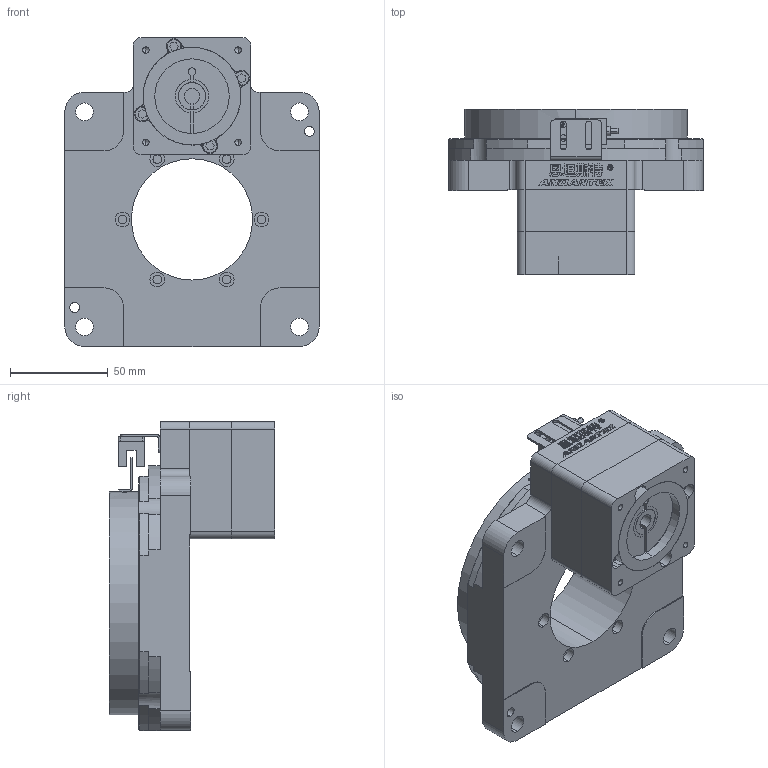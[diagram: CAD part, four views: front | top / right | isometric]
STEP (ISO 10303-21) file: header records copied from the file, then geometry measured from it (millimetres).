
FILE_DESCRIPTION(('Open CASCADE Model'),'2;1');
FILE_NAME('Open CASCADE Shape Model','2026-10-11T02:43:47',('Author'),( 'Open CASCADE'),'Open CASCADE STEP processor 7.8','Open CASCADE 7.8' ,'Unknown');
FILE_SCHEMA(('AUTOMOTIVE_DESIGN { 1 0 10303 214 1 1 1 1 }'));
Length unit declared in the file: millimetre
Products named in the file (3): NT130-18(配57步进 输入8-32 38.1-5 4-M4-47.14-47.14); NT130-18(配57步进 输入8-32 38.1-5 4-M4-47.14-47.14)-01; NT130-18(配57步进 输入8-32 38.1-5 4-M4-47.14-47.14)-02
Assembly tree (2 placements, depth 2):
  NT130-18(配57步进 输入8-32 38.1-5 4-M4-47.14-47.14)
    NT130-18(配57步进 输入8-32 38.1-5 4-M4-47.14-47.14)-01
    NT130-18(配57步进 输入8-32 38.1-5 4-M4-47.14-47.14)-02
Bounding box: 130 x 84.5 x 158 mm (x, y, z)
Volume: 593231.8 mm3; surface area: 103086.8 mm2
Topology: 7 solids, 7 shells, 1085 faces, 2990 edges, 1954 vertices
Faces by surface type: plane 822, cylinder 219, cone 44
Entity records: 73398 total; most frequent: CARTESIAN_POINT 16238, DIRECTION 9992, LINE 6624, VECTOR 6624, ORIENTED_EDGE 5908, PCURVE 5908, DEFINITIONAL_REPRESENTATION 5908, EDGE_CURVE 2954
